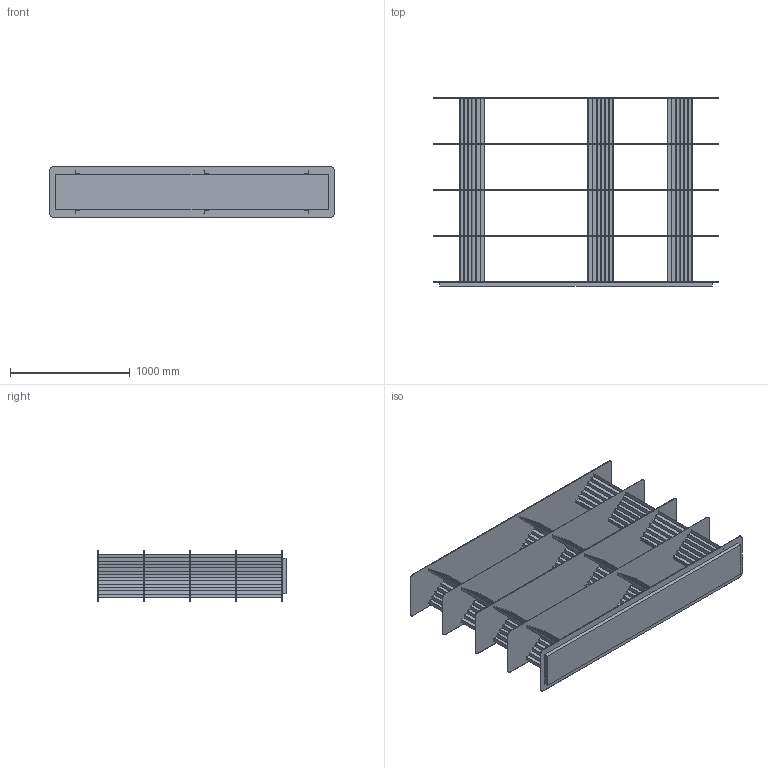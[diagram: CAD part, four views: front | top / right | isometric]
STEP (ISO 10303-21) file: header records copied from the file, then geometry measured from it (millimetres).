
FILE_DESCRIPTION (( 'STEP AP203' ), '1' );
FILE_NAME ('PLEC SHELVES L 4 NIVELES.STEP', '2025-05-08T09:58:20', ( '' ), ( '' ), 'SwSTEP 2.0', 'SolidWorks 2020', '' );
FILE_SCHEMA (( 'CONFIG_CONTROL_DESIGN' ));
Length unit declared in the file: millimetre
Products named in the file (1): PLEC SHELVES L 4 NIVELES
Bounding box: 2379 x 1571 x 420 mm (x, y, z)
Volume: 50393140.8 mm3; surface area: 18247100.7 mm2
Topology: 18 solids, 18 shells, 704 faces, 2004 edges, 1336 vertices
Faces by surface type: plane 684, cylinder 20
Entity records: 22491 total; most frequent: CARTESIAN_POINT 4045, ORIENTED_EDGE 4008, DIRECTION 3454, EDGE_CURVE 2004, LINE 1964, VECTOR 1964, VERTEX_POINT 1336, AXIS2_PLACEMENT_3D 745
